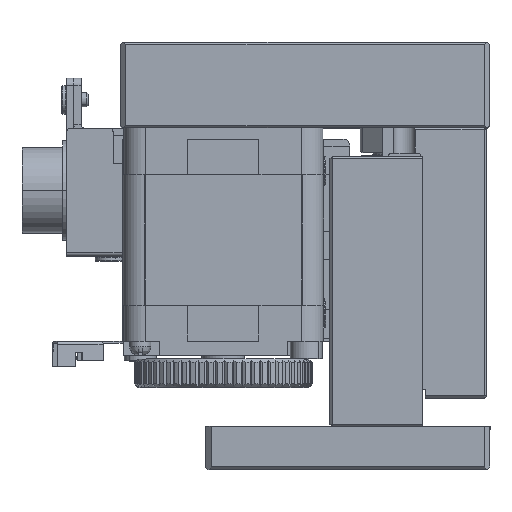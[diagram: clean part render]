
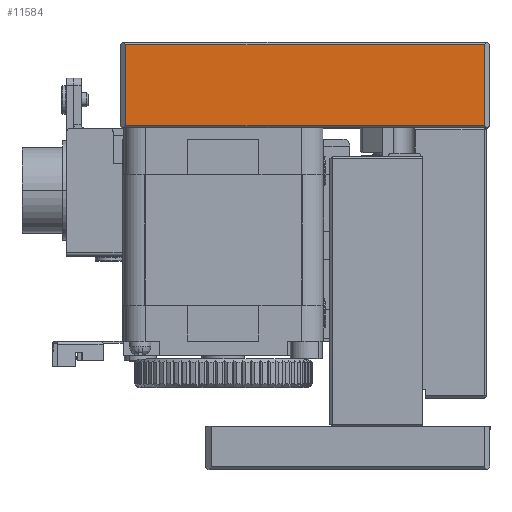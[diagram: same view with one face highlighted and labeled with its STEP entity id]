
A CAD part, top view. The second image highlights one B-rep face of the part: STEP entity #11584.
In plain terms, the highlighted planar face has unit normal (0, 0, 1).
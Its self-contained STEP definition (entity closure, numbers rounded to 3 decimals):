
#2128 = CARTESIAN_POINT ( 'NONE',  ( 106.67, -0.3, 70.977 ) ) ;
#3463 = VECTOR ( 'NONE', #86377, 1000. ) ;
#6291 = DIRECTION ( 'NONE',  ( 0., 0., -1. ) ) ;
#7894 = VECTOR ( 'NONE', #113622, 1000. ) ;
#10409 = VERTEX_POINT ( 'NONE', #51980 ) ;
#11584 = ADVANCED_FACE ( 'NONE', ( #101264 ), #17883, .F. ) ;
#13497 = VERTEX_POINT ( 'NONE', #45318 ) ;
#17883 = PLANE ( 'NONE',  #109066 ) ;
#19876 = LINE ( 'NONE', #150492, #150939 ) ;
#21447 = DIRECTION ( 'NONE',  ( 1., 0., 0. ) ) ;
#23852 = VERTEX_POINT ( 'NONE', #80912 ) ;
#35959 = EDGE_CURVE ( 'NONE', #149764, #13497, #139940, .T. ) ;
#45318 = CARTESIAN_POINT ( 'NONE',  ( 56.27, -0.3, 70.977 ) ) ;
#51178 = DIRECTION ( 'NONE',  ( 0., 1., 0. ) ) ;
#51980 = CARTESIAN_POINT ( 'NONE',  ( 106.67, -11.7, 70.977 ) ) ;
#52160 = LINE ( 'NONE', #134811, #128429 ) ;
#52409 = LINE ( 'NONE', #99509, #3463 ) ;
#52674 = CARTESIAN_POINT ( 'NONE',  ( 55.47, -12., 70.977 ) ) ;
#56497 = CARTESIAN_POINT ( 'NONE',  ( 55.47, -0.3, 70.977 ) ) ;
#78120 = EDGE_LOOP ( 'NONE', ( #111209, #134790, #105949, #139904 ) ) ;
#80906 = EDGE_CURVE ( 'NONE', #10409, #149764, #52409, .T. ) ;
#80912 = CARTESIAN_POINT ( 'NONE',  ( 56.27, -11.7, 70.977 ) ) ;
#86377 = DIRECTION ( 'NONE',  ( 0., 1., 0. ) ) ;
#99509 = CARTESIAN_POINT ( 'NONE',  ( 106.67, -12., 70.977 ) ) ;
#101264 = FACE_OUTER_BOUND ( 'NONE', #78120, .T. ) ;
#101995 = EDGE_CURVE ( 'NONE', #13497, #23852, #52160, .T. ) ;
#105949 = ORIENTED_EDGE ( 'NONE', *, *, #35959, .T. ) ;
#109066 = AXIS2_PLACEMENT_3D ( 'NONE', #52674, #6291, #51178 ) ;
#111209 = ORIENTED_EDGE ( 'NONE', *, *, #128819, .T. ) ;
#113622 = DIRECTION ( 'NONE',  ( -1., 0., 0. ) ) ;
#123900 = DIRECTION ( 'NONE',  ( 0., -1., 0. ) ) ;
#128429 = VECTOR ( 'NONE', #123900, 1000. ) ;
#128819 = EDGE_CURVE ( 'NONE', #23852, #10409, #19876, .T. ) ;
#134790 = ORIENTED_EDGE ( 'NONE', *, *, #80906, .T. ) ;
#134811 = CARTESIAN_POINT ( 'NONE',  ( 56.27, -12., 70.977 ) ) ;
#139904 = ORIENTED_EDGE ( 'NONE', *, *, #101995, .T. ) ;
#139940 = LINE ( 'NONE', #56497, #7894 ) ;
#149764 = VERTEX_POINT ( 'NONE', #2128 ) ;
#150492 = CARTESIAN_POINT ( 'NONE',  ( 55.47, -11.7, 70.977 ) ) ;
#150939 = VECTOR ( 'NONE', #21447, 1000. ) ;
